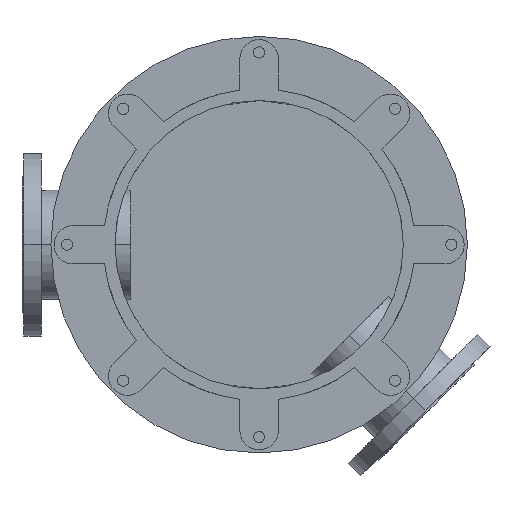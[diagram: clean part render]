
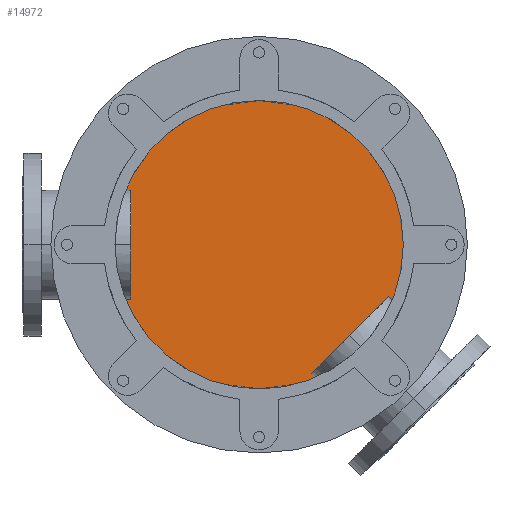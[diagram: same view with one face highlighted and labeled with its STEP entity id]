
A CAD part, front view. The second image highlights one B-rep face of the part: STEP entity #14972.
In plain terms, the highlighted planar face has unit normal (0, -1, 0).
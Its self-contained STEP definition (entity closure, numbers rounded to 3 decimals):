
#3908=CARTESIAN_POINT('',(0.,836.,0.));
#3909=DIRECTION('',(0.,-1.,0.));
#3910=DIRECTION('',(0.,0.,1.));
#3911=AXIS2_PLACEMENT_3D('',#3908,#3909,#3910);
#4035=CARTESIAN_POINT('',(0.,836.,0.));
#4036=DIRECTION('',(0.,-1.,0.));
#4037=DIRECTION('',(0.,0.,-1.));
#4038=AXIS2_PLACEMENT_3D('',#4035,#4036,#4037);
#9194=CARTESIAN_POINT('',(0.,836.,240.));
#9195=CARTESIAN_POINT('',(0.,836.,-240.));
#9196=VERTEX_POINT('',#9194);
#9197=VERTEX_POINT('',#9195);
#14962=CARTESIAN_POINT('',(0.,836.,0.));
#14963=DIRECTION('',(0.,1.,0.));
#14964=DIRECTION('',(0.,0.,-1.));
#14965=AXIS2_PLACEMENT_3D('',#14962,#14963,#14964);
#14966=PLANE('',#14965);
#14967=ORIENTED_EDGE('',*,*,#14946,.F.);
#14969=ORIENTED_EDGE('',*,*,#14968,.F.);
#14970=EDGE_LOOP('',(#14967,#14969));
#14971=FACE_OUTER_BOUND('',#14970,.F.);
#14972=ADVANCED_FACE('',(#14971),#14966,.F.);
#3912=CIRCLE('',#3911,240.);
#4039=CIRCLE('',#4038,240.);
#14946=EDGE_CURVE('',#9196,#9197,#3912,.T.);
#14968=EDGE_CURVE('',#9197,#9196,#4039,.T.);
